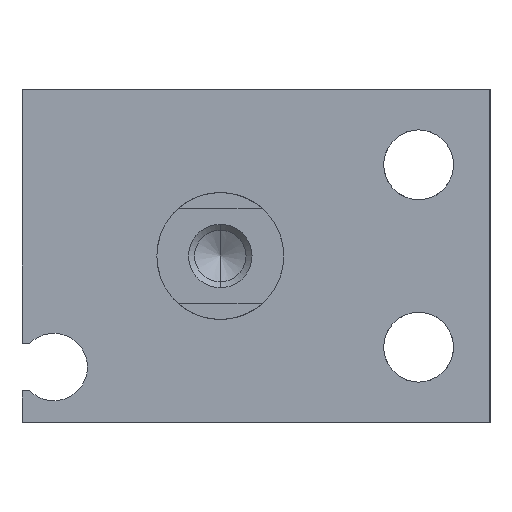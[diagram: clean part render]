
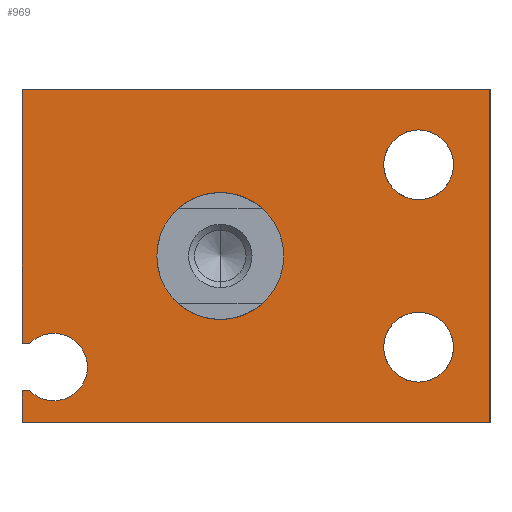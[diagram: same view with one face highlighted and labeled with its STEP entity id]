
A CAD part, left-side view. The second image highlights one B-rep face of the part: STEP entity #969.
In plain terms, the highlighted planar face has unit normal (-1, 0, 0).
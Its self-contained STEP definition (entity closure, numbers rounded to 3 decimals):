
#13 = AXIS2_PLACEMENT_3D ( 'NONE', #904, #180, #2573 ) ;
#60 = EDGE_CURVE ( 'NONE', #1433, #1792, #1989, .T. ) ;
#80 = LINE ( 'NONE', #1535, #1313 ) ;
#138 = CARTESIAN_POINT ( 'NONE',  ( 0., -12.5, -7.95 ) ) ;
#152 = DIRECTION ( 'NONE',  ( -1., 0., 0. ) ) ;
#159 = VERTEX_POINT ( 'NONE', #2478 ) ;
#160 = EDGE_CURVE ( 'NONE', #1792, #1367, #80, .T. ) ;
#180 = DIRECTION ( 'NONE',  ( -1., 0., 0. ) ) ;
#198 = DIRECTION ( 'NONE',  ( 0., 0., 1. ) ) ;
#222 = ORIENTED_EDGE ( 'NONE', *, *, #60, .T. ) ;
#269 = CARTESIAN_POINT ( 'NONE',  ( 0., -17., -10.5 ) ) ;
#357 = VERTEX_POINT ( 'NONE', #2346 ) ;
#372 = AXIS2_PLACEMENT_3D ( 'NONE', #1215, #463, #951 ) ;
#390 = EDGE_CURVE ( 'NONE', #3098, #2362, #1453, .T. ) ;
#411 = DIRECTION ( 'NONE',  ( -1., 0., 0. ) ) ;
#414 = EDGE_CURVE ( 'NONE', #1700, #1169, #1209, .T. ) ;
#429 = EDGE_CURVE ( 'NONE', #357, #159, #3036, .T. ) ;
#453 = CARTESIAN_POINT ( 'NONE',  ( 0., -12.5, 7.95 ) ) ;
#463 = DIRECTION ( 'NONE',  ( 1., 0., 0. ) ) ;
#474 = EDGE_LOOP ( 'NONE', ( #1539, #1674 ) ) ;
#488 = ORIENTED_EDGE ( 'NONE', *, *, #1564, .F. ) ;
#497 = CIRCLE ( 'NONE', #2302, 2.125 ) ;
#577 = FACE_BOUND ( 'NONE', #2186, .T. ) ;
#594 = FACE_OUTER_BOUND ( 'NONE', #2392, .T. ) ;
#606 = EDGE_CURVE ( 'NONE', #159, #1433, #1754, .T. ) ;
#614 = CARTESIAN_POINT ( 'NONE',  ( 0., 12.5, -8.5 ) ) ;
#642 = CARTESIAN_POINT ( 'NONE',  ( 0., 10.5, -7. ) ) ;
#648 = DIRECTION ( 'NONE',  ( 0., 1., 0. ) ) ;
#667 = ORIENTED_EDGE ( 'NONE', *, *, #2587, .F. ) ;
#676 = CIRCLE ( 'NONE', #1575, 4. ) ;
#688 = DIRECTION ( 'NONE',  ( 0., 0., 1. ) ) ;
#763 = CARTESIAN_POINT ( 'NONE',  ( 0., 12.005, -8.5 ) ) ;
#791 = EDGE_CURVE ( 'NONE', #2650, #860, #1117, .T. ) ;
#813 = ORIENTED_EDGE ( 'NONE', *, *, #429, .T. ) ;
#860 = VERTEX_POINT ( 'NONE', #2536 ) ;
#884 = ORIENTED_EDGE ( 'NONE', *, *, #414, .F. ) ;
#904 = CARTESIAN_POINT ( 'NONE',  ( 0., 10.5, -7. ) ) ;
#919 = VERTEX_POINT ( 'NONE', #1757 ) ;
#939 = DIRECTION ( 'NONE',  ( -1., 0., 0. ) ) ;
#942 = CARTESIAN_POINT ( 'NONE',  ( 0., 12.5, -5.5 ) ) ;
#947 = ORIENTED_EDGE ( 'NONE', *, *, #2883, .F. ) ;
#950 = VECTOR ( 'NONE', #648, 1000. ) ;
#951 = DIRECTION ( 'NONE',  ( 0., 0., -1. ) ) ;
#969 = ADVANCED_FACE ( 'NONE', ( #594, #1740, #2241, #577 ), #1033, .T. ) ;
#978 = CARTESIAN_POINT ( 'NONE',  ( 0., 0., 4. ) ) ;
#1033 = PLANE ( 'NONE',  #2541 ) ;
#1040 = AXIS2_PLACEMENT_3D ( 'NONE', #1669, #939, #198 ) ;
#1058 = VECTOR ( 'NONE', #1869, 1000. ) ;
#1095 = ORIENTED_EDGE ( 'NONE', *, *, #606, .T. ) ;
#1117 = LINE ( 'NONE', #3075, #950 ) ;
#1119 = EDGE_LOOP ( 'NONE', ( #884, #2174 ) ) ;
#1141 = EDGE_CURVE ( 'NONE', #860, #357, #1364, .T. ) ;
#1161 = EDGE_CURVE ( 'NONE', #1367, #919, #1309, .T. ) ;
#1169 = VERTEX_POINT ( 'NONE', #138 ) ;
#1209 = CIRCLE ( 'NONE', #2974, 2.2 ) ;
#1215 = CARTESIAN_POINT ( 'NONE',  ( 0., 0., 0. ) ) ;
#1309 = LINE ( 'NONE', #2294, #2692 ) ;
#1313 = VECTOR ( 'NONE', #2734, 1000. ) ;
#1345 = DIRECTION ( 'NONE',  ( -1., 0., 0. ) ) ;
#1347 = DIRECTION ( 'NONE',  ( -1., 0., 0. ) ) ;
#1364 = LINE ( 'NONE', #614, #2089 ) ;
#1366 = DIRECTION ( 'NONE',  ( 0., 0., 1. ) ) ;
#1367 = VERTEX_POINT ( 'NONE', #942 ) ;
#1390 = CARTESIAN_POINT ( 'NONE',  ( 0., -12.5, -3.55 ) ) ;
#1430 = VERTEX_POINT ( 'NONE', #2902 ) ;
#1433 = VERTEX_POINT ( 'NONE', #2419 ) ;
#1453 = CIRCLE ( 'NONE', #2212, 2.125 ) ;
#1456 = VECTOR ( 'NONE', #1942, 1000. ) ;
#1491 = DIRECTION ( 'NONE',  ( -1., 0., 0. ) ) ;
#1495 = VERTEX_POINT ( 'NONE', #2171 ) ;
#1535 = CARTESIAN_POINT ( 'NONE',  ( 0., 12.5, 10.5 ) ) ;
#1539 = ORIENTED_EDGE ( 'NONE', *, *, #3048, .T. ) ;
#1552 = DIRECTION ( 'NONE',  ( 0., 0., 1. ) ) ;
#1553 = DIRECTION ( 'NONE',  ( 0., 0., -1. ) ) ;
#1564 = EDGE_CURVE ( 'NONE', #1430, #1718, #2704, .T. ) ;
#1569 = CARTESIAN_POINT ( 'NONE',  ( 0., -12.5, -5.75 ) ) ;
#1571 = DIRECTION ( 'NONE',  ( 0., 0., -1. ) ) ;
#1575 = AXIS2_PLACEMENT_3D ( 'NONE', #2227, #2736, #1553 ) ;
#1590 = CARTESIAN_POINT ( 'NONE',  ( 0., -12.5, 5.75 ) ) ;
#1669 = CARTESIAN_POINT ( 'NONE',  ( 0., -12.5, -5.75 ) ) ;
#1674 = ORIENTED_EDGE ( 'NONE', *, *, #2761, .T. ) ;
#1678 = ORIENTED_EDGE ( 'NONE', *, *, #1161, .T. ) ;
#1699 = EDGE_CURVE ( 'NONE', #1169, #1700, #2544, .T. ) ;
#1700 = VERTEX_POINT ( 'NONE', #1390 ) ;
#1718 = VERTEX_POINT ( 'NONE', #453 ) ;
#1740 = FACE_BOUND ( 'NONE', #474, .T. ) ;
#1754 = LINE ( 'NONE', #269, #3008 ) ;
#1757 = CARTESIAN_POINT ( 'NONE',  ( 0., 12.005, -5.5 ) ) ;
#1782 = CIRCLE ( 'NONE', #13, 2.125 ) ;
#1792 = VERTEX_POINT ( 'NONE', #2150 ) ;
#1799 = ORIENTED_EDGE ( 'NONE', *, *, #2029, .F. ) ;
#1851 = CIRCLE ( 'NONE', #2103, 2.2 ) ;
#1869 = DIRECTION ( 'NONE',  ( 0., -1., 0. ) ) ;
#1913 = CARTESIAN_POINT ( 'NONE',  ( 0., 10.5, -9.125 ) ) ;
#1924 = ORIENTED_EDGE ( 'NONE', *, *, #390, .F. ) ;
#1942 = DIRECTION ( 'NONE',  ( 0., 1., 0. ) ) ;
#1989 = LINE ( 'NONE', #2716, #1456 ) ;
#1991 = CARTESIAN_POINT ( 'NONE',  ( 0., 10.5, -7. ) ) ;
#2029 = EDGE_CURVE ( 'NONE', #1718, #1430, #1851, .T. ) ;
#2040 = ORIENTED_EDGE ( 'NONE', *, *, #160, .T. ) ;
#2089 = VECTOR ( 'NONE', #1571, 1000. ) ;
#2103 = AXIS2_PLACEMENT_3D ( 'NONE', #1590, #411, #1366 ) ;
#2108 = DIRECTION ( 'NONE',  ( 0., 0., 1. ) ) ;
#2120 = DIRECTION ( 'NONE',  ( 0., 0., 1. ) ) ;
#2150 = CARTESIAN_POINT ( 'NONE',  ( 0., 12.5, 10.5 ) ) ;
#2171 = CARTESIAN_POINT ( 'NONE',  ( 0., 0., -4. ) ) ;
#2174 = ORIENTED_EDGE ( 'NONE', *, *, #1699, .F. ) ;
#2186 = EDGE_LOOP ( 'NONE', ( #1799, #488 ) ) ;
#2212 = AXIS2_PLACEMENT_3D ( 'NONE', #642, #1347, #2108 ) ;
#2227 = CARTESIAN_POINT ( 'NONE',  ( 0., 0., 0. ) ) ;
#2241 = FACE_BOUND ( 'NONE', #1119, .T. ) ;
#2263 = DIRECTION ( 'NONE',  ( 0., -1., 0. ) ) ;
#2294 = CARTESIAN_POINT ( 'NONE',  ( 0., 12.5, -5.5 ) ) ;
#2302 = AXIS2_PLACEMENT_3D ( 'NONE', #2609, #1345, #2354 ) ;
#2330 = ORIENTED_EDGE ( 'NONE', *, *, #791, .T. ) ;
#2346 = CARTESIAN_POINT ( 'NONE',  ( 0., 12.5, -10.5 ) ) ;
#2354 = DIRECTION ( 'NONE',  ( 0., 0., 1. ) ) ;
#2362 = VERTEX_POINT ( 'NONE', #3102 ) ;
#2392 = EDGE_LOOP ( 'NONE', ( #813, #1095, #222, #2040, #1678, #947, #1924, #667, #2330, #2827 ) ) ;
#2419 = CARTESIAN_POINT ( 'NONE',  ( 0., -17., 10.5 ) ) ;
#2452 = DIRECTION ( 'NONE',  ( 0., 0., 1. ) ) ;
#2478 = CARTESIAN_POINT ( 'NONE',  ( 0., -17., -10.5 ) ) ;
#2536 = CARTESIAN_POINT ( 'NONE',  ( 0., 12.5, -8.5 ) ) ;
#2541 = AXIS2_PLACEMENT_3D ( 'NONE', #1991, #2971, #1552 ) ;
#2544 = CIRCLE ( 'NONE', #1040, 2.2 ) ;
#2573 = DIRECTION ( 'NONE',  ( 0., 0., 1. ) ) ;
#2587 = EDGE_CURVE ( 'NONE', #2650, #3098, #497, .T. ) ;
#2609 = CARTESIAN_POINT ( 'NONE',  ( 0., 10.5, -7. ) ) ;
#2650 = VERTEX_POINT ( 'NONE', #763 ) ;
#2689 = CARTESIAN_POINT ( 'NONE',  ( 0., -12.5, 5.75 ) ) ;
#2692 = VECTOR ( 'NONE', #2263, 1000. ) ;
#2704 = CIRCLE ( 'NONE', #2957, 2.2 ) ;
#2716 = CARTESIAN_POINT ( 'NONE',  ( 0., -17., 10.5 ) ) ;
#2734 = DIRECTION ( 'NONE',  ( 0., 0., -1. ) ) ;
#2736 = DIRECTION ( 'NONE',  ( 1., 0., 0. ) ) ;
#2761 = EDGE_CURVE ( 'NONE', #3027, #1495, #676, .T. ) ;
#2827 = ORIENTED_EDGE ( 'NONE', *, *, #1141, .T. ) ;
#2883 = EDGE_CURVE ( 'NONE', #2362, #919, #1782, .T. ) ;
#2902 = CARTESIAN_POINT ( 'NONE',  ( 0., -12.5, 3.55 ) ) ;
#2957 = AXIS2_PLACEMENT_3D ( 'NONE', #2689, #1491, #2452 ) ;
#2971 = DIRECTION ( 'NONE',  ( -1., 0., 0. ) ) ;
#2974 = AXIS2_PLACEMENT_3D ( 'NONE', #1569, #152, #2120 ) ;
#3008 = VECTOR ( 'NONE', #688, 1000. ) ;
#3027 = VERTEX_POINT ( 'NONE', #978 ) ;
#3036 = LINE ( 'NONE', #3087, #1058 ) ;
#3048 = EDGE_CURVE ( 'NONE', #1495, #3027, #3094, .T. ) ;
#3075 = CARTESIAN_POINT ( 'NONE',  ( 0., 12.005, -8.5 ) ) ;
#3087 = CARTESIAN_POINT ( 'NONE',  ( 0., 12.5, -10.5 ) ) ;
#3094 = CIRCLE ( 'NONE', #372, 4. ) ;
#3098 = VERTEX_POINT ( 'NONE', #1913 ) ;
#3102 = CARTESIAN_POINT ( 'NONE',  ( 0., 10.5, -4.875 ) ) ;
